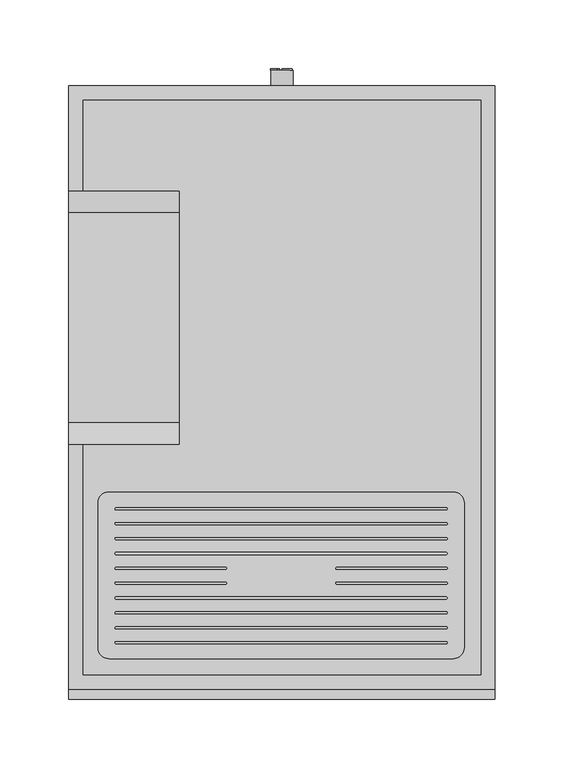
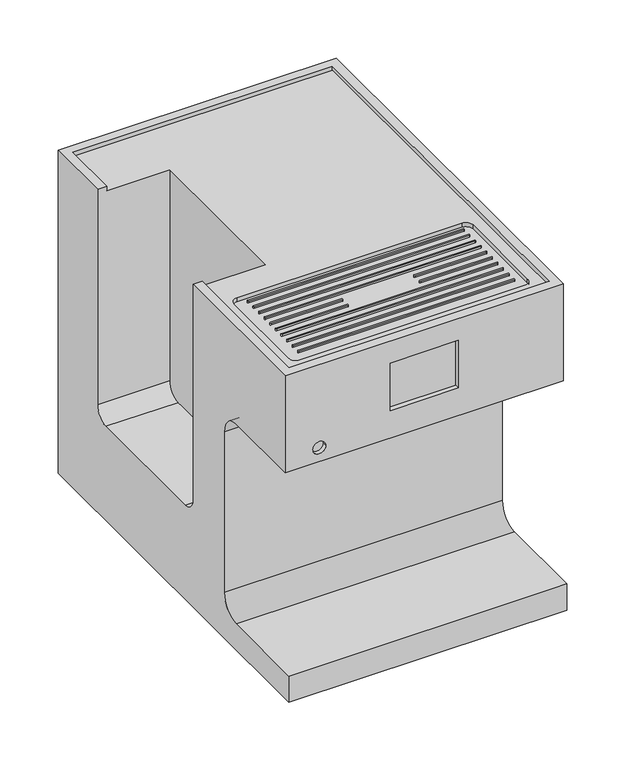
"""IFC4 building model written with IfcOpenShell, lengths in millimetres: proxy geometry, 11685800_GBX_CM7750_OBSW : 29775020_GBX_11685800_CM7750_OBSW."""

from ifc_helpers import new_model, si_unit, point, frame, frame_2d, origin, origin_with_axes, place, context, project, spatial, polyline, circle_curve, trimmed, segment, composite_curve, outline, extrude, source, transform, mapped, element, save
from ifc_brep_helpers import plane_surface, revolved_surface, advanced_brep


def specialty_equipment_5a334f16(model_context):
    return source(origin(), model_context, "Body", "SolidModel", [
        advanced_brep(
        [(155.0, -438.3821149, 397.0), (155.0, -438.3821149, 282.4328861), (155.0, -343.8005135, 282.4328861), (155.0, -320.8005135, 259.4328861), (155.0, -320.8005135, 70.3993974), (155.0, -343.8005135, 47.3993974), (155.0, -445.5820312, 47.3993974), (155.0, -445.5820312, 16.3993974), (155.0, -297.5804642, 16.3993974), (155.0, -297.5804642, 391.7036314), (155.0, -295.1106834, 391.7036314), (155.0, -295.1106834, 16.3993974), (155.0, -18.5962654, 16.3993974), (155.0, -18.5962654, 391.7036314), (155.0, -16.6439936, 391.7036314), (155.0, -16.6439936, 16.3993974), (155.0, 0.0, 16.3993974), (155.0, 0.0, 397.0), (155.0, -274.1723402, 377.3844175), (155.0, -40.3820038, 377.3844175), (155.0, -40.3820038, 370.415576), (155.0, -274.1723402, 370.415576), (-155.0, 0.0, 397.0), (-155.0, 0.0, 16.3993974), (-155.0, -445.5820312, 16.3993974), (-155.0, -445.5820312, 47.3993974), (-155.0, -343.8005135, 47.3993974), (-155.0, -320.8005135, 70.3993974), (-155.0, -320.8005135, 259.4328861), (-155.0, -343.8005135, 282.4328861), (-155.0, -438.3821149, 282.4328861), (-155.0, -438.3821149, 397.0), (-155.0, -260.8993144, 397.0), (-155.0, -260.8993144, 143.1722611), (-155.0, -244.8993144, 127.1722611), (-155.0, -92.0598421, 127.1722611), (-155.0, -76.0598421, 143.1722611), (-155.0, -76.0598421, 397.0), (-72.7464893, 0.0, 16.3993974), (-72.7464893, -6.5820312, 16.3993974), (-71.7464893, -6.5820312, 16.3993974), (-71.7464893, 0.0, 16.3993974), (71.7464893, 0.0, 16.3993974), (71.7464893, -6.5820312, 16.3993974), (72.7464893, -6.5820312, 16.3993974), (72.7464893, 0.0, 16.3993974), (148.8000031, -16.6439936, 16.3993974), (148.8000031, -18.5962654, 16.3993974), (148.8000031, -295.1106834, 16.3993974), (148.8000031, -297.5804642, 16.3993974), (72.7464893, 0.0, 286.3395521), (-72.7464893, 0.0, 286.3395521), (-71.7464893, 0.0, 285.3395521), (71.7464893, 0.0, 285.3395521), (-67.2299957, 0.0, 280.3997633), (-67.2299957, 0.0, 242.6997663), (67.1699982, 0.0, 242.6997663), (67.1699982, 0.0, 280.3997633), (66.1699982, 0.0, 279.3997633), (66.1699982, 0.0, 243.6997663), (-66.2299957, 0.0, 243.6997663), (-66.2299957, 0.0, 279.3997633), (-145.0, -76.0598421, 397.0), (-145.0, -9.9540739, 397.0), (145.0, -9.9540739, 397.0), (145.0, -428.3821149, 397.0), (-145.0, -428.3821149, 397.0), (-145.0, -260.8993144, 397.0), (-109.871069, -438.3821149, 298.9499998), (-124.1509726, -438.3821149, 298.9499998), (-38.0, -438.3821149, 371.0), (38.0, -438.3821149, 371.0), (38.0, -438.3821149, 315.0), (-38.0, -438.3821149, 315.0), (-145.0, -428.3821149, 392.0), (145.0, -428.3821149, 392.0), (145.0, -9.9540739, 392.0), (-145.0, -9.9540739, 392.0), (-145.0, -76.0598421, 392.0), (-74.3005066, -76.0598421, 392.0), (-74.3005066, -260.8993144, 392.0), (-145.0, -260.8993144, 392.0), (-125.7733765, -295.1106834, 392.0), (124.609314, -295.1106834, 392.0), (132.609314, -303.1106834, 392.0), (132.609314, -408.1485367, 392.0), (124.609314, -416.1485367, 392.0), (-125.7733765, -416.1485367, 392.0), (-133.7733765, -408.1485367, 392.0), (-133.7733765, -303.1106834, 392.0), (124.609314, -295.1106834, 387.0), (-125.7733765, -295.1106834, 387.0), (-133.7733765, -303.1106834, 387.0), (-133.7733765, -408.1485367, 387.0), (-125.7733765, -416.1485367, 387.0), (124.609314, -416.1485367, 387.0), (132.609314, -408.1485367, 387.0), (132.609314, -303.1106834, 387.0), (-67.2299957, -1.4311593, 280.3997633), (67.1699982, -1.4311593, 280.3997633), (67.1699982, -1.4311593, 242.6997663), (-67.2299957, -1.4311593, 242.6997663), (66.1699982, -1.4311593, 279.3997633), (-66.2299957, -1.4311593, 279.3997633), (-66.2299957, -1.4311593, 243.6997663), (66.1699982, -1.4311593, 243.6997663), (-74.3005066, -76.0598421, 143.1722611), (-74.3005066, -92.0598421, 127.1722611), (-74.3005066, -244.8993144, 127.1722611), (-74.3005066, -260.8993144, 143.1722611), (-124.1509726, -433.3821149, 298.9499998), (-109.871069, -433.3821149, 298.9499998), (-72.7464893, -6.5820312, 286.3395521), (72.7464893, -6.5820312, 286.3395521), (71.7464893, -6.5820312, 285.3395521), (-71.7464893, -6.5820312, 285.3395521), (147.1000061, -40.3820038, 377.3844175), (147.1000061, -274.1723402, 377.3844175), (147.1000061, -274.1723402, 370.415576), (147.1000061, -40.3820038, 370.415576), (148.8000031, -295.1106834, 391.7036314), (148.8000031, -297.5804642, 391.7036314), (148.8000031, -16.6439936, 391.7036314), (148.8000031, -18.5962654, 391.7036314), (38.0, -433.3821149, 315.0), (-38.0, -433.3821149, 315.0), (-38.0, -433.3821149, 371.0), (38.0, -433.3821149, 371.0)],
        [
            (0, 1),
            (1, 2),
            (2, 3, circle_curve(frame((155.0, -343.8005135, 259.4328861), z_axis=(-1.0, 0.0, 0.0), x_axis=(0.0, 1.0, 0.0)), 23.0)),
            (3, 4),
            (4, 5, circle_curve(frame((155.0, -343.8005135, 70.3993974), z_axis=(-1.0, 0.0, 0.0), x_axis=(0.0, 1.0, 0.0)), 23.0)),
            (5, 6),
            (6, 7),
            (7, 8),
            (8, 9),
            (9, 10),
            (10, 11),
            (11, 12),
            (12, 13),
            (13, 14),
            (14, 15),
            (15, 16),
            (16, 17),
            (17, 0),
            (18, 19),
            (19, 20),
            (20, 21),
            (21, 18),
            (22, 23),
            (23, 24),
            (24, 25),
            (25, 26),
            (26, 27, circle_curve(frame((-155.0, -343.8005135, 70.3993974), z_axis=(1.0, 0.0, 0.0), x_axis=(0.0, 1.0, 0.0)), 23.0)),
            (27, 28),
            (28, 29, circle_curve(frame((-155.0, -343.8005135, 259.4328861), z_axis=(1.0, 0.0, 0.0), x_axis=(0.0, 1.0, 0.0)), 23.0)),
            (29, 30),
            (30, 31),
            (31, 32),
            (32, 33),
            (33, 34, circle_curve(frame((-155.0, -244.8993144, 143.1722611), z_axis=(1.0, 0.0, 0.0), x_axis=(0.0, 1.0, 0.0)), 16.0)),
            (34, 35),
            (35, 36, circle_curve(frame((-155.0, -92.0598421, 143.1722611), z_axis=(1.0, 0.0, 0.0), x_axis=(0.0, 1.0, 0.0)), 16.0)),
            (36, 37),
            (37, 22),
            (23, 38),
            (38, 39),
            (39, 40),
            (40, 41),
            (41, 42),
            (42, 43),
            (43, 44),
            (44, 45),
            (45, 16),
            (15, 46),
            (46, 47),
            (47, 12),
            (11, 48),
            (48, 49),
            (49, 8),
            (7, 24),
            (45, 50),
            (50, 51),
            (51, 38),
            (22, 17),
            (41, 52),
            (52, 53),
            (53, 42),
            (54, 55),
            (55, 56),
            (56, 57),
            (57, 54),
            (58, 59),
            (59, 60),
            (60, 61),
            (61, 58),
            (37, 62),
            (62, 63),
            (63, 64),
            (64, 65),
            (65, 66),
            (66, 67),
            (67, 32),
            (31, 0),
            (30, 1),
            (68, 69, circle_curve(frame((-117.0110208, -438.3821149, 298.9499998), z_axis=(0.0, 1.0, 0.0), x_axis=(1.0, 0.0, 0.0)), 7.1399518)),
            (69, 68, circle_curve(frame((-117.0110208, -438.3821149, 298.9499998), z_axis=(0.0, 1.0, 0.0), x_axis=(1.0, 0.0, 0.0)), 7.1399518)),
            (70, 71),
            (71, 72),
            (72, 73),
            (73, 70),
            (29, 2),
            (28, 3),
            (27, 4),
            (26, 5),
            (25, 6),
            (74, 75),
            (75, 76),
            (76, 77),
            (77, 78),
            (78, 79),
            (79, 80),
            (80, 81),
            (81, 74),
            (82, 83),
            (83, 84, circle_curve(frame((124.609314, -303.1106834, 392.0), z_axis=(0.0, 0.0, -1.0), x_axis=(1.0, 0.0, 0.0)), 8.0)),
            (84, 85),
            (85, 86, circle_curve(frame((124.609314, -408.1485367, 392.0), z_axis=(0.0, 0.0, -1.0), x_axis=(1.0, 0.0, 0.0)), 8.0)),
            (86, 87),
            (87, 88, circle_curve(frame((-125.7733765, -408.1485367, 392.0), z_axis=(0.0, 0.0, -1.0), x_axis=(1.0, 0.0, 0.0)), 8.0)),
            (88, 89),
            (89, 82, circle_curve(frame((-125.7733765, -303.1106834, 392.0), z_axis=(0.0, 0.0, -1.0), x_axis=(1.0, 0.0, 0.0)), 8.0)),
            (74, 66),
            (65, 75),
            (64, 76),
            (63, 77),
            (81, 67),
            (62, 78),
            (90, 91),
            (91, 92, circle_curve(frame((-125.7733765, -303.1106834, 387.0), z_axis=(0.0, 0.0, 1.0), x_axis=(1.0, 0.0, 0.0)), 8.0)),
            (92, 93),
            (93, 94, circle_curve(frame((-125.7733765, -408.1485367, 387.0), z_axis=(0.0, 0.0, 1.0), x_axis=(1.0, 0.0, 0.0)), 8.0)),
            (94, 95),
            (95, 96, circle_curve(frame((124.609314, -408.1485367, 387.0), z_axis=(0.0, 0.0, 1.0), x_axis=(1.0, 0.0, 0.0)), 8.0)),
            (96, 97),
            (97, 90, circle_curve(frame((124.609314, -303.1106834, 387.0), z_axis=(0.0, 0.0, 1.0), x_axis=(1.0, 0.0, 0.0)), 8.0)),
            (90, 83),
            (82, 91),
            (89, 92),
            (88, 93),
            (87, 94),
            (86, 95),
            (85, 96),
            (84, 97),
            (98, 99),
            (99, 100),
            (100, 101),
            (101, 98),
            (102, 103),
            (103, 104),
            (104, 105),
            (105, 102),
            (101, 55),
            (54, 98),
            (100, 56),
            (99, 57),
            (106, 107, circle_curve(frame((-74.3005066, -92.0598421, 143.1722611), z_axis=(-1.0, 0.0, 0.0), x_axis=(0.0, 1.0, 0.0)), 16.0)),
            (107, 108),
            (108, 109, circle_curve(frame((-74.3005066, -244.8993144, 143.1722611), z_axis=(-1.0, 0.0, 0.0), x_axis=(0.0, 1.0, 0.0)), 16.0)),
            (109, 80),
            (79, 106),
            (109, 33),
            (108, 34),
            (107, 35),
            (106, 36),
            (110, 111, circle_curve(frame((-117.0110208, -433.3821149, 298.9499998), z_axis=(0.0, -1.0, 0.0), x_axis=(1.0, 0.0, 0.0)), 7.1399518)),
            (111, 110, circle_curve(frame((-117.0110208, -433.3821149, 298.9499998), z_axis=(0.0, -1.0, 0.0), x_axis=(1.0, 0.0, 0.0)), 7.1399518)),
            (110, 69),
            (68, 111),
            (112, 113),
            (113, 44),
            (43, 114),
            (114, 115),
            (115, 40),
            (39, 112),
            (51, 112),
            (115, 52),
            (114, 53),
            (113, 50),
            (105, 59),
            (58, 102),
            (104, 60),
            (103, 61),
            (116, 117),
            (117, 118),
            (118, 119),
            (119, 116),
            (116, 19),
            (18, 117),
            (21, 118),
            (20, 119),
            (120, 121),
            (121, 49),
            (48, 120),
            (46, 122),
            (122, 123),
            (123, 47),
            (120, 10),
            (9, 121),
            (14, 122),
            (13, 123),
            (124, 125),
            (125, 73),
            (72, 124),
            (126, 127),
            (127, 71),
            (70, 126),
            (125, 126),
            (127, 124),
        ],
        [
            plane_surface(frame((155.0, -438.3821149, 397.0), z_axis=(1.0, 0.0, 0.0), x_axis=(0.0, 0.0, -1.0))),
            plane_surface(frame((-155.0, -438.3821149, 397.0), z_axis=(-1.0, 0.0, 0.0), x_axis=(0.0, 0.0, 1.0))),
            plane_surface(frame((155.0, -445.5820312, 16.3993974), z_axis=(0.0, 0.0, -1.0), x_axis=(-1.0, 0.0, 0.0))),
            plane_surface(frame((155.0, 0.0, 16.3993974), z_axis=(0.0, 1.0, 0.0), x_axis=(-1.0, 0.0, 0.0))),
            plane_surface(frame((155.0, 0.0, 397.0), z_axis=(0.0, 0.0, 1.0), x_axis=(-1.0, 0.0, 0.0))),
            plane_surface(frame((155.0, -438.3821149, 397.0), z_axis=(0.0, -1.0, 0.0), x_axis=(-1.0, 0.0, 0.0))),
            plane_surface(frame((155.0, -438.3821149, 282.4328861), z_axis=(0.0, 0.0, -1.0), x_axis=(-1.0, 0.0, 0.0))),
            revolved_surface(polyline([(-155.0, -320.8005135, 259.4328861), (155.0, -320.8005135, 259.4328861)]), (-155.0, -343.8005135, 259.4328861), (-1.0, 0.0, 0.0)),
            plane_surface(frame((155.0, -320.8005135, 259.4328861), z_axis=(0.0, -1.0, 0.0), x_axis=(-1.0, 0.0, 0.0))),
            revolved_surface(polyline([(-155.0, -320.8005135, 70.3993974), (155.0, -320.8005135, 70.3993974)]), (-155.0, -343.8005135, 70.3993974), (-1.0, 0.0, 0.0)),
            plane_surface(frame((155.0, -343.8005135, 47.3993974), z_axis=(0.0, 0.0, 1.0), x_axis=(-1.0, 0.0, 0.0))),
            plane_surface(frame((155.0, -445.5820312, 47.3993974), z_axis=(0.0, -1.0, 0.0), x_axis=(-1.0, 0.0, 0.0))),
            plane_surface(frame((149.1561824, -428.3821149, 392.0), z_axis=(0.0, 0.0, 1.0), x_axis=(-1.0, 0.0, 0.0))),
            plane_surface(frame((-145.0, -428.3821149, 397.0), z_axis=(0.0, 1.0, 0.0), x_axis=(0.0, 0.0, -1.0))),
            plane_surface(frame((145.0, -428.3821149, 397.0), z_axis=(-1.0, 0.0, 0.0), x_axis=(0.0, 0.0, -1.0))),
            plane_surface(frame((145.0, -9.9540739, 397.0), z_axis=(0.0, -1.0, 0.0), x_axis=(0.0, 0.0, -1.0))),
            plane_surface(frame((-145.0, -9.9540739, 397.0), z_axis=(1.0, 0.0, 0.0), x_axis=(0.0, 0.0, -1.0))),
            plane_surface(frame((-131.2630187, -295.1106834, 387.0), z_axis=(0.0, 0.0, 1.0), x_axis=(1.0, 0.0, 0.0))),
            plane_surface(frame((124.609314, -295.1106834, 392.0), z_axis=(0.0, -1.0, 0.0), x_axis=(0.0, 0.0, -1.0))),
            revolved_surface(polyline([(-117.7733765, -303.1106834, 392.0), (-117.7733765, -303.1106834, 387.0)]), (-125.7733765, -303.1106834, 387.0), (0.0, 0.0, 1.0)),
            plane_surface(frame((-133.7733765, -303.1106834, 392.0), z_axis=(1.0, 0.0, 0.0), x_axis=(0.0, 0.0, -1.0))),
            revolved_surface(polyline([(-117.7733765, -408.1485367, 392.0), (-117.7733765, -408.1485367, 387.0)]), (-125.7733765, -408.1485367, 387.0), (0.0, 0.0, 1.0)),
            plane_surface(frame((-125.7733765, -416.1485367, 392.0), z_axis=(0.0, 1.0, 0.0), x_axis=(0.0, 0.0, -1.0))),
            revolved_surface(polyline([(132.60931399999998, -408.1485367, 392.0), (132.60931399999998, -408.1485367, 387.0)]), (124.609314, -408.1485367, 387.0), (0.0, 0.0, 1.0)),
            plane_surface(frame((132.609314, -408.1485367, 392.0), z_axis=(-1.0, 0.0, 0.0), x_axis=(0.0, 0.0, -1.0))),
            revolved_surface(polyline([(132.60931399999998, -303.1106834, 392.0), (132.60931399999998, -303.1106834, 387.0)]), (124.609314, -303.1106834, 387.0), (0.0, 0.0, 1.0)),
            plane_surface(frame((-67.2299957, -1.4311593, 235.6799621), z_axis=(0.0, 1.0, 0.0), x_axis=(0.0, 0.0, -1.0))),
            plane_surface(frame((-67.2299957, -1.4311593, 280.3997633), z_axis=(1.0, 0.0, 0.0), x_axis=(0.0, 1.0, 0.0))),
            plane_surface(frame((-67.2299957, -1.4311593, 242.6997663), z_axis=(0.0, 0.0, 1.0), x_axis=(0.0, 1.0, 0.0))),
            plane_surface(frame((67.1699982, -1.4311593, 242.6997663), z_axis=(-1.0, 0.0, 0.0), x_axis=(0.0, 1.0, 0.0))),
            plane_surface(frame((67.1699982, -1.4311593, 280.3997633), z_axis=(0.0, 0.0, -1.0), x_axis=(0.0, 1.0, 0.0))),
            plane_surface(frame((-74.3005066, -260.8993144, 397.0), z_axis=(-1.0, 0.0, 0.0), x_axis=(0.0, 0.0, -1.0))),
            plane_surface(frame((-74.3005066, -260.8993144, 397.0), z_axis=(0.0, 1.0, 0.0), x_axis=(-1.0, 0.0, 0.0))),
            revolved_surface(polyline([(-74.3005066, -228.8993144, 143.1722611), (-155.0, -228.8993144, 143.1722611)]), (-184.0228521, -244.8993144, 143.1722611), (1.0, 0.0, 0.0)),
            plane_surface(frame((-74.3005066, -244.8993144, 127.1722611), z_axis=(0.0, 0.0, 1.0), x_axis=(-1.0, 0.0, 0.0))),
            revolved_surface(polyline([(-74.3005066, -76.0598421, 143.1722611), (-155.0, -76.0598421, 143.1722611)]), (-184.0228521, -92.0598421, 143.1722611), (1.0, 0.0, 0.0)),
            plane_surface(frame((-74.3005066, -76.0598421, 143.1722611), z_axis=(0.0, -1.0, 0.0), x_axis=(-1.0, 0.0, 0.0))),
            plane_surface(frame((-109.871069, -433.3821149, 298.9499998), z_axis=(0.0, -1.0, 0.0), x_axis=(0.0, 0.0, -1.0))),
            revolved_surface(polyline([(-109.87106899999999, -438.3821149, 298.9499998), (-109.87106899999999, -433.3821149, 298.9499998)]), (-117.0110208, -433.3821149, 298.9499998), (0.0, -1.0, 0.0)),
            plane_surface(frame((-72.7464893, -6.5820312, 286.3395521), z_axis=(0.0, 1.0, 0.0), x_axis=(0.0, 0.0, -1.0))),
            plane_surface(frame((-72.7464893, -6.5820312, 286.3395521), z_axis=(1.0, 0.0, 0.0), x_axis=(0.0, 1.0, 0.0))),
            plane_surface(frame((-71.7464893, -6.5820312, 16.3993974), z_axis=(-1.0, 0.0, 0.0), x_axis=(0.0, 1.0, 0.0))),
            plane_surface(frame((-71.7464893, -6.5820312, 285.3395521), z_axis=(0.0, 0.0, 1.0), x_axis=(0.0, 1.0, 0.0))),
            plane_surface(frame((71.7464893, -6.5820312, 285.3395521), z_axis=(1.0, 0.0, 0.0), x_axis=(0.0, 1.0, 0.0))),
            plane_surface(frame((72.7464893, -6.5820312, 16.3993974), z_axis=(-1.0, 0.0, 0.0), x_axis=(0.0, 1.0, 0.0))),
            plane_surface(frame((72.7464893, -6.5820312, 286.3395521), z_axis=(0.0, 0.0, -1.0), x_axis=(0.0, 1.0, 0.0))),
            plane_surface(frame((66.1699982, -1.4311593, 279.3997633), z_axis=(1.0, 0.0, 0.0), x_axis=(0.0, 1.0, 0.0))),
            plane_surface(frame((66.1699982, -1.4311593, 243.6997663), z_axis=(0.0, 0.0, -1.0), x_axis=(0.0, 1.0, 0.0))),
            plane_surface(frame((-66.2299957, -1.4311593, 243.6997663), z_axis=(-1.0, 0.0, 0.0), x_axis=(0.0, 1.0, 0.0))),
            plane_surface(frame((-66.2299957, -1.4311593, 279.3997633), z_axis=(0.0, 0.0, 1.0), x_axis=(0.0, 1.0, 0.0))),
            plane_surface(frame((147.1000061, -274.1723402, 377.3844175), z_axis=(1.0, 0.0, 0.0), x_axis=(0.0, 1.0, 0.0))),
            plane_surface(frame((190.8403148, -40.3820038, 377.3844175), z_axis=(0.0, 0.0, -1.0), x_axis=(-1.0, 0.0, 0.0))),
            plane_surface(frame((190.8403148, -274.1723402, 377.3844175), z_axis=(0.0, 1.0, 0.0), x_axis=(-1.0, 0.0, 0.0))),
            plane_surface(frame((190.8403148, -274.1723402, 370.415576), z_axis=(0.0, 0.0, 1.0), x_axis=(-1.0, 0.0, 0.0))),
            plane_surface(frame((190.8403148, -40.3820038, 370.415576), z_axis=(0.0, -1.0, 0.0), x_axis=(-1.0, 0.0, 0.0))),
            plane_surface(frame((148.8000031, -297.5804642, 391.7036314), z_axis=(1.0, 0.0, 0.0), x_axis=(0.0, 1.0, 0.0))),
            plane_surface(frame((250.0, -295.1106834, 391.7036314), z_axis=(0.0, 0.0, -1.0), x_axis=(-1.0, 0.0, 0.0))),
            plane_surface(frame((250.0, -297.5804642, 391.7036314), z_axis=(0.0, 1.0, 0.0), x_axis=(-1.0, 0.0, 0.0))),
            plane_surface(frame((250.0, -295.1106834, 16.3993974), z_axis=(0.0, -1.0, 0.0), x_axis=(-1.0, 0.0, 0.0))),
            plane_surface(frame((250.0, -16.6439936, 16.3993974), z_axis=(0.0, -1.0, 0.0), x_axis=(-1.0, 0.0, 0.0))),
            plane_surface(frame((250.0, -16.6439936, 391.7036314), z_axis=(0.0, 0.0, -1.0), x_axis=(-1.0, 0.0, 0.0))),
            plane_surface(frame((250.0, -18.5962654, 391.7036314), z_axis=(0.0, 1.0, 0.0), x_axis=(-1.0, 0.0, 0.0))),
            plane_surface(frame((-38.0, -445.3283722, 315.0), z_axis=(0.0, 0.0, 1.0), x_axis=(0.0, 1.0, 0.0))),
            plane_surface(frame((38.0, -445.3283722, 371.0), z_axis=(0.0, 0.0, -1.0), x_axis=(0.0, 1.0, 0.0))),
            plane_surface(frame((-38.0, -445.3283722, 371.0), z_axis=(1.0, 0.0, 0.0), x_axis=(0.0, 1.0, 0.0))),
            plane_surface(frame((38.0, -445.3283722, 315.0), z_axis=(-1.0, 0.0, 0.0), x_axis=(0.0, 1.0, 0.0))),
            plane_surface(frame((-38.0, -433.3821149, 371.0), z_axis=(0.0, -1.0, 0.0), x_axis=(1.0, 0.0, 0.0))),
        ],
        [
            (0, [[1, 2, 3, 4, 5, 6, 7, 8, 9, 10, 11, 12, 13, 14, 15, 16, 17, 18], [19, 20, 21, 22]]),
            (1, [[23, 24, 25, 26, 27, 28, 29, 30, 31, 32, 33, 34, 35, 36, 37, 38]]),
            (2, [[-24, 39, 40, 41, 42, 43, 44, 45, 46, 47, -16, 48, 49, 50, -12, 51, 52, 53, -8, 54]]),
            (3, [[-17, -47, 55, 56, 57, -39, -23, 58]]),
            (3, [[-43, 59, 60, 61], [62, 63, 64, 65]]),
            (3, [[66, 67, 68, 69]]),
            (4, [[-18, -58, -38, 70, 71, 72, 73, 74, 75, 76, -32, 77]]),
            (5, [[-1, -77, -31, 78], [79, 80], [81, 82, 83, 84]]),
            (6, [[-2, -78, -30, 85]]),
            (7, [[-3, -85, -29, 86]]),
            (8, [[-4, -86, -28, 87]]),
            (9, [[-5, -87, -27, 88]]),
            (10, [[-6, -88, -26, 89]]),
            (11, [[-7, -89, -25, -54]]),
            (12, [[90, 91, 92, 93, 94, 95, 96, 97], [98, 99, 100, 101, 102, 103, 104, 105]]),
            (13, [[-90, 106, -74, 107]]),
            (14, [[-91, -107, -73, 108]]),
            (15, [[-92, -108, -72, 109]]),
            (16, [[-106, -97, 110, -75]]),
            (16, [[-109, -71, 111, -93]]),
            (17, [[112, 113, 114, 115, 116, 117, 118, 119]]),
            (18, [[-112, 120, -98, 121]]),
            (19, [[-113, -121, -105, 122]]),
            (20, [[-114, -122, -104, 123]]),
            (21, [[-115, -123, -103, 124]]),
            (22, [[-116, -124, -102, 125]]),
            (23, [[-117, -125, -101, 126]]),
            (24, [[-118, -126, -100, 127]]),
            (25, [[-119, -127, -99, -120]]),
            (26, [[128, 129, 130, 131], [132, 133, 134, 135]]),
            (27, [[-131, 136, -62, 137]]),
            (28, [[-130, 138, -63, -136]]),
            (29, [[-129, 139, -64, -138]]),
            (30, [[-128, -137, -65, -139]]),
            (31, [[140, 141, 142, 143, -95, 144]]),
            (32, [[-143, 145, -33, -76, -110, -96]]),
            (33, [[-142, 146, -34, -145]]),
            (34, [[-141, 147, -35, -146]]),
            (35, [[-140, 148, -36, -147]]),
            (36, [[-144, -94, -111, -70, -37, -148]]),
            (37, [[149, 150]]),
            (38, [[-149, 151, -79, 152]]),
            (38, [[-150, -152, -80, -151]]),
            (39, [[153, 154, -45, 155, 156, 157, -41, 158]]),
            (40, [[-158, -40, -57, 159]]),
            (41, [[-157, 160, -59, -42]]),
            (42, [[-156, 161, -60, -160]]),
            (43, [[-155, -44, -61, -161]]),
            (44, [[-154, 162, -55, -46]]),
            (45, [[-153, -159, -56, -162]]),
            (46, [[-135, 163, -66, 164]]),
            (47, [[-134, 165, -67, -163]]),
            (48, [[-133, 166, -68, -165]]),
            (49, [[-132, -164, -69, -166]]),
            (50, [[167, 168, 169, 170]]),
            (51, [[-167, 171, -19, 172]]),
            (52, [[-168, -172, -22, 173]]),
            (53, [[-169, -173, -21, 174]]),
            (54, [[-170, -174, -20, -171]]),
            (55, [[175, 176, -52, 177]]),
            (55, [[178, 179, 180, -49]]),
            (56, [[-175, 181, -10, 182]]),
            (57, [[-176, -182, -9, -53]]),
            (58, [[-177, -51, -11, -181]]),
            (59, [[-178, -48, -15, 183]]),
            (60, [[-179, -183, -14, 184]]),
            (61, [[-180, -184, -13, -50]]),
            (62, [[185, 186, -83, 187]]),
            (63, [[188, 189, -81, 190]]),
            (64, [[191, -190, -84, -186]]),
            (65, [[192, -187, -82, -189]]),
            (66, [[-188, -191, -185, -192]]),
        ],
    ),
        extrude(outline(composite_curve([segment(trimmed(circle_curve(frame_2d((-111.6838977, -47.0643921)), 1.0), [point((-111.6838977, -46.0643921))], [point((-110.6838977, -47.0643921))], False, "CARTESIAN"), True, "CONTINUOUS"), segment(polyline([(-110.6838977, -47.0643921), (-110.6838977, -68.8996887)]), True, "CONTINUOUS"), segment(trimmed(circle_curve(frame_2d((-111.6838977, -68.8996887)), 1.0), [point((-110.6838977, -68.8996887))], [point((-111.6838977, -69.8996887))], False, "CARTESIAN"), True, "CONTINUOUS"), segment(polyline([(-111.6838977, -69.8996887), (-126.8176422, -69.8996887)]), True, "CONTINUOUS"), segment(trimmed(circle_curve(frame_2d((-126.8176422, -68.8996887)), 1.0), [point((-126.8176422, -69.8996887))], [point((-127.8176422, -68.8996887))], False, "CARTESIAN"), True, "CONTINUOUS"), segment(polyline([(-127.8176422, -68.8996887), (-127.8176422, -47.0643921)]), True, "CONTINUOUS"), segment(trimmed(circle_curve(frame_2d((-126.8176422, -47.0643921)), 1.0), [point((-127.8176422, -47.0643921))], [point((-126.8176422, -46.0643921))], False, "CARTESIAN"), True, "CONTINUOUS"), segment(polyline([(-126.8176422, -46.0643921), (-111.6838977, -46.0643921)]), True, "CONTINUOUS")], self_intersect=False)), origin_with_axes(), (0.0, 0.0, 1.0), 3.6999998),
        extrude(outline(composite_curve([segment(polyline([(89.6808126, -46.0643921), (104.8176422, -46.0643921)]), True, "CONTINUOUS"), segment(trimmed(circle_curve(frame_2d((104.8176422, -47.0643921)), 1.0), [point((104.8176422, -46.0643921))], [point((105.8176422, -47.0643921))], False, "CARTESIAN"), True, "CONTINUOUS"), segment(polyline([(105.8176422, -47.0643921), (105.8176422, -68.8996887)]), True, "CONTINUOUS"), segment(trimmed(circle_curve(frame_2d((104.8176422, -68.8996887)), 1.0), [point((105.8176422, -68.8996887))], [point((104.8176422, -69.8996887))], False, "CARTESIAN"), True, "CONTINUOUS"), segment(polyline([(104.8176422, -69.8996887), (89.6808126, -69.8996887)]), True, "CONTINUOUS"), segment(trimmed(circle_curve(frame_2d((89.6808126, -68.8996887)), 1.0), [point((89.6808126, -69.8996887))], [point((88.6808126, -68.8996887))], False, "CARTESIAN"), True, "CONTINUOUS"), segment(polyline([(88.6808126, -68.8996887), (88.6808126, -47.0643921)]), True, "CONTINUOUS"), segment(trimmed(circle_curve(frame_2d((89.6808126, -47.0643921)), 1.0), [point((88.6808126, -47.0643921))], [point((89.6808126, -46.0643921))], False, "CARTESIAN"), True, "CONTINUOUS")], self_intersect=False)), origin_with_axes(), (0.0, 0.0, 1.0), 3.6999998),
        extrude(outline(composite_curve([segment(polyline([(112.2548065, -289.4182587), (127.87898, -289.4182587)]), True, "CONTINUOUS"), segment(trimmed(circle_curve(frame_2d((127.87898, -290.4182587)), 1.0), [point((127.87898, -289.4182587))], [point((128.87898, -290.4182587))], False, "CARTESIAN"), True, "CONTINUOUS"), segment(polyline([(128.87898, -290.4182587), (128.87898, -312.0491112)]), True, "CONTINUOUS"), segment(trimmed(circle_curve(frame_2d((127.87898, -312.0491112)), 1.0), [point((128.87898, -312.0491112))], [point((127.87898, -313.0491112))], False, "CARTESIAN"), True, "CONTINUOUS"), segment(polyline([(127.87898, -313.0491112), (112.2548065, -313.0491112)]), True, "CONTINUOUS"), segment(trimmed(circle_curve(frame_2d((112.2548065, -312.0491112)), 1.0), [point((112.2548065, -313.0491112))], [point((111.2548065, -312.0491112))], False, "CARTESIAN"), True, "CONTINUOUS"), segment(polyline([(111.2548065, -312.0491112), (111.2548065, -290.4182587)]), True, "CONTINUOUS"), segment(trimmed(circle_curve(frame_2d((112.2548065, -290.4182587)), 1.0), [point((111.2548065, -290.4182587))], [point((112.2548065, -289.4182587))], False, "CARTESIAN"), True, "CONTINUOUS")], self_intersect=False)), origin_with_axes(), (0.0, 0.0, 1.0), 3.6999998),
        extrude(outline(composite_curve([segment(trimmed(circle_curve(frame_2d((-112.509615, -290.4182587)), 1.0), [point((-112.509615, -289.4182587))], [point((-111.509615, -290.4182587))], False, "CARTESIAN"), True, "CONTINUOUS"), segment(polyline([(-111.509615, -290.4182587), (-111.509615, -312.0491112)]), True, "CONTINUOUS"), segment(trimmed(circle_curve(frame_2d((-112.509615, -312.0491112)), 1.0), [point((-111.509615, -312.0491112))], [point((-112.509615, -313.0491112))], False, "CARTESIAN"), True, "CONTINUOUS"), segment(polyline([(-112.509615, -313.0491112), (-128.3469722, -313.0491112)]), True, "CONTINUOUS"), segment(trimmed(circle_curve(frame_2d((-128.3469722, -312.0491112)), 1.0), [point((-128.3469722, -313.0491112))], [point((-129.3469722, -312.0491112))], False, "CARTESIAN"), True, "CONTINUOUS"), segment(polyline([(-129.3469722, -312.0491112), (-129.3469722, -290.4182587)]), True, "CONTINUOUS"), segment(trimmed(circle_curve(frame_2d((-128.3469722, -290.4182587)), 1.0), [point((-129.3469722, -290.4182587))], [point((-128.3469722, -289.4182587))], False, "CARTESIAN"), True, "CONTINUOUS"), segment(polyline([(-128.3469722, -289.4182587), (-112.509615, -289.4182587)]), True, "CONTINUOUS")], self_intersect=False)), origin_with_axes(), (0.0, 0.0, 1.0), 3.6999998),
        extrude(outline(composite_curve([segment(polyline([(-118.2694755, -381.4050159), (-97.8140391, -381.4050159)]), True, "CONTINUOUS"), segment(trimmed(circle_curve(frame_2d((-97.8140391, -386.4050159)), 5.0), [point((-97.8140391, -381.4050159))], [point((-92.8140391, -386.4050159))], False, "CARTESIAN"), True, "CONTINUOUS"), segment(polyline([(-92.8140391, -386.4050159), (-92.8140391, -388.8400154)]), True, "CONTINUOUS"), segment(trimmed(circle_curve(frame_2d((-97.8140391, -388.8400154)), 5.0), [point((-92.8140391, -388.8400154))], [point((-97.8140391, -393.8400154))], False, "CARTESIAN"), True, "CONTINUOUS"), segment(polyline([(-97.8140391, -393.8400154), (-118.2694755, -393.8400154)]), True, "CONTINUOUS"), segment(trimmed(circle_curve(frame_2d((-118.2694755, -388.8400154)), 5.0), [point((-118.2694755, -393.8400154))], [point((-123.2694755, -388.8400154))], False, "CARTESIAN"), True, "CONTINUOUS"), segment(polyline([(-123.2694755, -388.8400154), (-123.2694755, -386.4050159)]), True, "CONTINUOUS"), segment(trimmed(circle_curve(frame_2d((-118.2694755, -386.4050159)), 5.0), [point((-123.2694755, -386.4050159))], [point((-118.2694755, -381.4050159))], False, "CARTESIAN"), True, "CONTINUOUS")], self_intersect=False)), origin_with_axes(), (0.0, 0.0, 1.0), 3.6999998),
        extrude(outline(composite_curve([segment(polyline([(124.25, -32.2840881), (114.25, -32.2840881)]), True, "CONTINUOUS"), segment(trimmed(circle_curve(frame_2d((114.25, -29.0820313)), 3.2020569), [point((114.25, -32.2840881))], [point((114.25, -25.8799744))], False, "CARTESIAN"), True, "CONTINUOUS"), segment(polyline([(114.25, -25.8799744), (124.25, -25.8799744)]), True, "CONTINUOUS"), segment(trimmed(circle_curve(frame_2d((124.25, -29.0820313)), 3.2020569), [point((124.25, -25.8799744))], [point((124.25, -32.2840881))], False, "CARTESIAN"), True, "CONTINUOUS")], self_intersect=False)), origin_with_axes(), (0.0, 0.0, 1.0), 3.6999998),
        extrude(outline(composite_curve([segment(trimmed(circle_curve(frame_2d((118.2694755, -386.4050159)), 5.0), [point((118.2694755, -381.4050159))], [point((123.2694755, -386.4050159))], False, "CARTESIAN"), True, "CONTINUOUS"), segment(polyline([(123.2694755, -386.4050159), (123.2694755, -388.8400154)]), True, "CONTINUOUS"), segment(trimmed(circle_curve(frame_2d((118.2694755, -388.8400154)), 5.0), [point((123.2694755, -388.8400154))], [point((118.2694755, -393.8400154))], False, "CARTESIAN"), True, "CONTINUOUS"), segment(polyline([(118.2694755, -393.8400154), (97.8140391, -393.8400154)]), True, "CONTINUOUS"), segment(trimmed(circle_curve(frame_2d((97.8140391, -388.8400154)), 5.0), [point((97.8140391, -393.8400154))], [point((92.8140391, -388.8400154))], False, "CARTESIAN"), True, "CONTINUOUS"), segment(polyline([(92.8140391, -388.8400154), (92.8140391, -386.4050159)]), True, "CONTINUOUS"), segment(trimmed(circle_curve(frame_2d((97.8140391, -386.4050159)), 5.0), [point((92.8140391, -386.4050159))], [point((97.8140391, -381.4050159))], False, "CARTESIAN"), True, "CONTINUOUS"), segment(polyline([(97.8140391, -381.4050159), (118.2694755, -381.4050159)]), True, "CONTINUOUS")], self_intersect=False)), origin_with_axes(), (0.0, 0.0, 1.0), 3.6999998),
        extrude(outline(composite_curve([segment(trimmed(circle_curve(frame_2d((-124.25, -29.0820313)), 3.2020569), [point((-124.25, -32.2840881))], [point((-124.25, -25.8799744))], False, "CARTESIAN"), True, "CONTINUOUS"), segment(polyline([(-124.25, -25.8799744), (-114.25, -25.8799744)]), True, "CONTINUOUS"), segment(trimmed(circle_curve(frame_2d((-114.25, -29.0820313)), 3.2020569), [point((-114.25, -25.8799744))], [point((-114.25, -32.2840881))], False, "CARTESIAN"), True, "CONTINUOUS"), segment(polyline([(-114.25, -32.2840881), (-124.25, -32.2840881)]), True, "CONTINUOUS")], self_intersect=False)), origin_with_axes(), (0.0, 0.0, 1.0), 3.6999998),
        extrude(outline(polyline([(11.3993974, 7.3772603), (21.4450284, 7.3772603), (21.4450284, 0.156963), (20.1893246, 0.156963), (20.1893246, 6.1215564), (17.2070279, 6.1215564), (17.2070279, 0.470889), (15.951324, 0.470889), (15.951324, 6.1215564), (12.6551013, 6.1215564), (12.6551013, 0.0), (11.3993974, 0.0), (11.3993974, 7.3772603)])), frame((0.0, 11.4037346, 0.0), z_axis=(0.0, 1.0, 0.0), x_axis=(0.0, 0.0, 1.0)), (0.0, 0.0, 1.0), 1.0),
        extrude(outline(polyline([(11.3993974, -1.8835558), (21.4450284, -1.8835558), (21.4450284, -3.1392597), (12.6551013, -3.1392597), (12.6551013, -8.1620752), (11.3993974, -8.1620752), (11.3993974, -1.8835558)])), frame((0.0, 11.4037346, 0.0), z_axis=(0.0, 1.0, 0.0), x_axis=(0.0, 0.0, 1.0)), (0.0, 0.0, 1.0), 1.0),
        extrude(outline(composite_curve([segment(trimmed(circle_curve(frame_2d((16.3993974, 0.0)), 8.0), [point((16.3993974, -8.0))], [point((16.3993974, 8.0))], False, "CARTESIAN"), True, "CONTINUOUS"), segment(trimmed(circle_curve(frame_2d((16.3993974, 0.0)), 8.0), [point((16.3993974, 8.0))], [point((16.3993974, -8.0))], False, "CARTESIAN"), True, "CONTINUOUS")], self_intersect=False)), frame((0.0, -18.5962654, 0.0), z_axis=(0.0, 1.0, 0.0), x_axis=(0.0, 0.0, 1.0)), (0.0, 0.0, 1.0), 30.0),
        extrude(outline(composite_curve([segment(trimmed(circle_curve(frame_2d((119.4179687, -307.3654499)), 0.8000011), [point((119.4179687, -306.5654488))], [point((119.4179687, -308.165451))], False, "CARTESIAN"), True, "CONTINUOUS"), segment(polyline([(119.4179687, -308.165451), (-120.5820313, -308.165451)]), True, "CONTINUOUS"), segment(trimmed(circle_curve(frame_2d((-120.5820313, -307.3654499)), 0.8000011), [point((-120.5820313, -308.165451))], [point((-120.5820313, -306.5654488))], False, "CARTESIAN"), True, "CONTINUOUS"), segment(polyline([(-120.5820313, -306.5654488), (119.4179687, -306.5654488)]), True, "CONTINUOUS")], self_intersect=False)), frame((0.0, 0.0, 392.0), z_axis=(0.0, 0.0, 1.0), x_axis=(1.0, 0.0, 0.0)), (0.0, 0.0, 1.0), 2.0149755),
        extrude(outline(composite_curve([segment(trimmed(circle_curve(frame_2d((119.4179687, -318.1214705)), 0.8000011), [point((119.4179687, -317.3214693))], [point((119.4179687, -318.9214716))], False, "CARTESIAN"), True, "CONTINUOUS"), segment(polyline([(119.4179687, -318.9214716), (-120.5820313, -318.9214716)]), True, "CONTINUOUS"), segment(trimmed(circle_curve(frame_2d((-120.5820313, -318.1214705)), 0.8000011), [point((-120.5820313, -318.9214716))], [point((-120.5820313, -317.3214693))], False, "CARTESIAN"), True, "CONTINUOUS"), segment(polyline([(-120.5820313, -317.3214693), (119.4179687, -317.3214693)]), True, "CONTINUOUS")], self_intersect=False)), frame((0.0, 0.0, 392.0), z_axis=(0.0, 0.0, 1.0), x_axis=(1.0, 0.0, 0.0)), (0.0, 0.0, 1.0), 2.0149755),
        extrude(outline(composite_curve([segment(trimmed(circle_curve(frame_2d((119.4179687, -329.0094278)), 0.8000011), [point((119.4179687, -328.2094266))], [point((119.4179687, -329.8094289))], False, "CARTESIAN"), True, "CONTINUOUS"), segment(polyline([(119.4179687, -329.8094289), (-120.5820313, -329.8094289)]), True, "CONTINUOUS"), segment(trimmed(circle_curve(frame_2d((-120.5820313, -329.0094278)), 0.8000011), [point((-120.5820313, -329.8094289))], [point((-120.5820313, -328.2094266))], False, "CARTESIAN"), True, "CONTINUOUS"), segment(polyline([(-120.5820313, -328.2094266), (119.4179687, -328.2094266)]), True, "CONTINUOUS")], self_intersect=False)), frame((0.0, 0.0, 392.0), z_axis=(0.0, 0.0, 1.0), x_axis=(1.0, 0.0, 0.0)), (0.0, 0.0, 1.0), 2.0149755),
        extrude(outline(composite_curve([segment(trimmed(circle_curve(frame_2d((119.4179687, -339.7654483)), 0.8000011), [point((119.4179687, -338.9654472))], [point((119.4179687, -340.5654495))], False, "CARTESIAN"), True, "CONTINUOUS"), segment(polyline([(119.4179687, -340.5654495), (-120.5820313, -340.5654495)]), True, "CONTINUOUS"), segment(trimmed(circle_curve(frame_2d((-120.5820313, -339.7654483)), 0.8000011), [point((-120.5820313, -340.5654495))], [point((-120.5820313, -338.9654472))], False, "CARTESIAN"), True, "CONTINUOUS"), segment(polyline([(-120.5820313, -338.9654472), (119.4179687, -338.9654472)]), True, "CONTINUOUS")], self_intersect=False)), frame((0.0, 0.0, 392.0), z_axis=(0.0, 0.0, 1.0), x_axis=(1.0, 0.0, 0.0)), (0.0, 0.0, 1.0), 2.0149755),
        extrude(outline(composite_curve([segment(trimmed(circle_curve(frame_2d((-41.1506691, -350.5654497)), 0.8000002), [point((-41.1506691, -349.7654495))], [point((-41.1506691, -351.3654499))], False, "CARTESIAN"), True, "CONTINUOUS"), segment(polyline([(-41.1506691, -351.3654499), (-120.5820313, -351.3654499)]), True, "CONTINUOUS"), segment(trimmed(circle_curve(frame_2d((-120.5820313, -350.5654497)), 0.8000002), [point((-120.5820313, -351.3654499))], [point((-120.5820313, -349.7654495))], False, "CARTESIAN"), True, "CONTINUOUS"), segment(polyline([(-120.5820313, -349.7654495), (-41.1506691, -349.7654495)]), True, "CONTINUOUS")], self_intersect=False)), frame((0.0, 0.0, 392.0), z_axis=(0.0, 0.0, 1.0), x_axis=(1.0, 0.0, 0.0)), (0.0, 0.0, 1.0), 2.0149755),
        extrude(outline(composite_curve([segment(trimmed(circle_curve(frame_2d((-41.1506691, -361.365449)), 0.8000002), [point((-41.1506691, -360.5654488))], [point((-41.1506691, -362.1654491))], False, "CARTESIAN"), True, "CONTINUOUS"), segment(polyline([(-41.1506691, -362.1654491), (-120.5820313, -362.1654491)]), True, "CONTINUOUS"), segment(trimmed(circle_curve(frame_2d((-120.5820313, -361.365449)), 0.8000002), [point((-120.5820313, -362.1654491))], [point((-120.5820313, -360.5654488))], False, "CARTESIAN"), True, "CONTINUOUS"), segment(polyline([(-120.5820313, -360.5654488), (-41.1506691, -360.5654488)]), True, "CONTINUOUS")], self_intersect=False)), frame((0.0, 0.0, 392.0), z_axis=(0.0, 0.0, 1.0), x_axis=(1.0, 0.0, 0.0)), (0.0, 0.0, 1.0), 2.0149755),
        extrude(outline(composite_curve([segment(trimmed(circle_curve(frame_2d((119.4253311, -350.5654497)), 0.8000002), [point((119.4253311, -349.7654495))], [point((119.4253311, -351.3654499))], False, "CARTESIAN"), True, "CONTINUOUS"), segment(polyline([(119.4253311, -351.3654499), (39.993969, -351.3654499)]), True, "CONTINUOUS"), segment(trimmed(circle_curve(frame_2d((39.993969, -350.5654497)), 0.8000002), [point((39.993969, -351.3654499))], [point((39.993969, -349.7654495))], False, "CARTESIAN"), True, "CONTINUOUS"), segment(polyline([(39.993969, -349.7654495), (119.4253311, -349.7654495)]), True, "CONTINUOUS")], self_intersect=False)), frame((0.0, 0.0, 392.0), z_axis=(0.0, 0.0, 1.0), x_axis=(1.0, 0.0, 0.0)), (0.0, 0.0, 1.0), 2.0149755),
        extrude(outline(composite_curve([segment(trimmed(circle_curve(frame_2d((119.4253311, -361.365449)), 0.8000002), [point((119.4253311, -360.5654488))], [point((119.4253311, -362.1654491))], False, "CARTESIAN"), True, "CONTINUOUS"), segment(polyline([(119.4253311, -362.1654491), (39.993969, -362.1654491)]), True, "CONTINUOUS"), segment(trimmed(circle_curve(frame_2d((39.993969, -361.365449)), 0.8000002), [point((39.993969, -362.1654491))], [point((39.993969, -360.5654488))], False, "CARTESIAN"), True, "CONTINUOUS"), segment(polyline([(39.993969, -360.5654488), (119.4253311, -360.5654488)]), True, "CONTINUOUS")], self_intersect=False)), frame((0.0, 0.0, 392.0), z_axis=(0.0, 0.0, 1.0), x_axis=(1.0, 0.0, 0.0)), (0.0, 0.0, 1.0), 2.0149755),
        extrude(outline(composite_curve([segment(trimmed(circle_curve(frame_2d((119.4179687, -372.1654484)), 0.8000011), [point((119.4179687, -371.3654473))], [point((119.4179687, -372.9654496))], False, "CARTESIAN"), True, "CONTINUOUS"), segment(polyline([(119.4179687, -372.9654496), (-120.5820313, -372.9654496)]), True, "CONTINUOUS"), segment(trimmed(circle_curve(frame_2d((-120.5820313, -372.1654484)), 0.8000011), [point((-120.5820313, -372.9654496))], [point((-120.5820313, -371.3654473))], False, "CARTESIAN"), True, "CONTINUOUS"), segment(polyline([(-120.5820313, -371.3654473), (119.4179687, -371.3654473)]), True, "CONTINUOUS")], self_intersect=False)), frame((0.0, 0.0, 392.0), z_axis=(0.0, 0.0, 1.0), x_axis=(1.0, 0.0, 0.0)), (0.0, 0.0, 1.0), 2.0149755),
        extrude(outline(composite_curve([segment(trimmed(circle_curve(frame_2d((119.4179687, -382.921469)), 0.8000011), [point((119.4179687, -382.1214678))], [point((119.4179687, -383.7214701))], False, "CARTESIAN"), True, "CONTINUOUS"), segment(polyline([(119.4179687, -383.7214701), (-120.5820313, -383.7214701)]), True, "CONTINUOUS"), segment(trimmed(circle_curve(frame_2d((-120.5820313, -382.921469)), 0.8000011), [point((-120.5820313, -383.7214701))], [point((-120.5820313, -382.1214678))], False, "CARTESIAN"), True, "CONTINUOUS"), segment(polyline([(-120.5820313, -382.1214678), (119.4179687, -382.1214678)]), True, "CONTINUOUS")], self_intersect=False)), frame((0.0, 0.0, 392.0), z_axis=(0.0, 0.0, 1.0), x_axis=(1.0, 0.0, 0.0)), (0.0, 0.0, 1.0), 2.0149755),
        extrude(outline(composite_curve([segment(trimmed(circle_curve(frame_2d((119.4179687, -393.8094263)), 0.8000011), [point((119.4179687, -393.0094251))], [point((119.4179687, -394.6094274))], False, "CARTESIAN"), True, "CONTINUOUS"), segment(polyline([(119.4179687, -394.6094274), (-120.5820313, -394.6094274)]), True, "CONTINUOUS"), segment(trimmed(circle_curve(frame_2d((-120.5820313, -393.8094263)), 0.8000011), [point((-120.5820313, -394.6094274))], [point((-120.5820313, -393.0094251))], False, "CARTESIAN"), True, "CONTINUOUS"), segment(polyline([(-120.5820313, -393.0094251), (119.4179687, -393.0094251)]), True, "CONTINUOUS")], self_intersect=False)), frame((0.0, 0.0, 392.0), z_axis=(0.0, 0.0, 1.0), x_axis=(1.0, 0.0, 0.0)), (0.0, 0.0, 1.0), 2.0149755),
        extrude(outline(composite_curve([segment(trimmed(circle_curve(frame_2d((119.4179687, -404.5654469)), 0.8000011), [point((119.4179687, -403.7654457))], [point((119.4179687, -405.365448))], False, "CARTESIAN"), True, "CONTINUOUS"), segment(polyline([(119.4179687, -405.365448), (-120.5820313, -405.365448)]), True, "CONTINUOUS"), segment(trimmed(circle_curve(frame_2d((-120.5820313, -404.5654469)), 0.8000011), [point((-120.5820313, -405.365448))], [point((-120.5820313, -403.7654457))], False, "CARTESIAN"), True, "CONTINUOUS"), segment(polyline([(-120.5820313, -403.7654457), (119.4179687, -403.7654457)]), True, "CONTINUOUS")], self_intersect=False)), frame((0.0, 0.0, 392.0), z_axis=(0.0, 0.0, 1.0), x_axis=(1.0, 0.0, 0.0)), (0.0, 0.0, 1.0), 2.0149755),
    ])


if __name__ == "__main__":
    model = new_model("IFC4")
    model_context = context("Model", 3, world=origin())
    ifc_project = project(units=[si_unit("LENGTHUNIT", "METRE", prefix="MILLI")], contexts=[model_context])
    site = spatial("IfcSite", under=ifc_project)
    building = spatial("IfcBuilding", under=site)
    placement = place(None, origin())
    specialty_equipment_shape = specialty_equipment_5a334f16(model_context)
    element("IfcBuildingElementProxy", 1, Name="11685800_GBX_CM7750_OBSW : 29775020_GBX_11685800_CM7750_OBSW", ObjectType="11685800_GBX_CM7750_OBSW : 29775020_GBX_11685800_CM7750_OBSW", at=placement, inside=building, context=model_context, shape_type="MappedRepresentation", body=[
        mapped(specialty_equipment_shape, transform((0.0, 0.0, 0.0), x_axis=(1.0, 0.0, 0.0), y_axis=(0.0, 1.0, 0.0), z_axis=(0.0, 0.0, 1.0))),
    ])
    save(model, "model.ifc")
